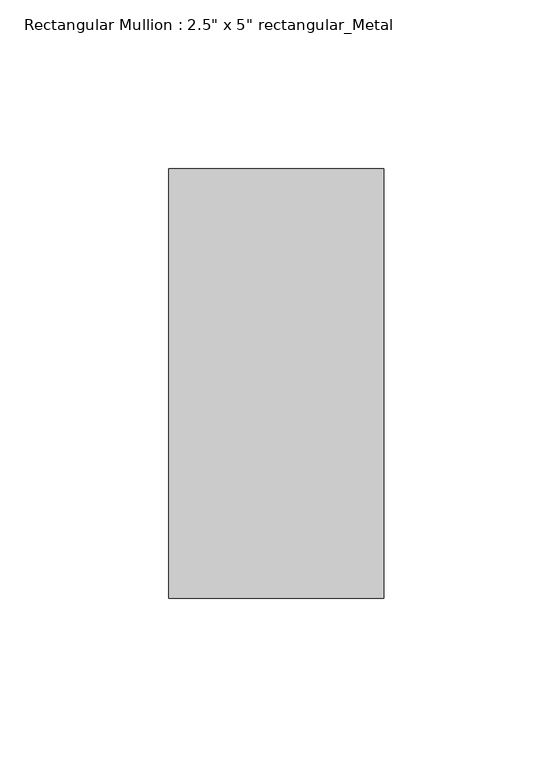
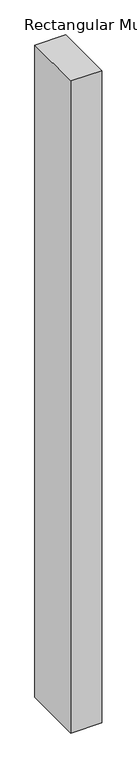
"""IFC4 building model written with IfcOpenShell, lengths in millimetres: member geometry."""

from ifc_helpers import new_model, si_unit, frame, origin, place, context, project, spatial, polyline, outline, extrude, source, transform, mapped, element, save


def member_243ec899(model_context):
    return source(origin(), model_context, "Body", "SweptSolid", [
        extrude(outline(polyline([(0.0, 63.5), (0.0, -63.5), (-63.5, -63.5), (-63.5, 63.5), (0.0, 63.5)])), frame((0.0, 0.0, -1409.7), z_axis=(0.0, 0.0, 1.0), x_axis=(1.0, 0.0, 0.0)), (0.0, 0.0, 1.0), 1409.7),
    ])


if __name__ == "__main__":
    model = new_model("IFC4")
    model_context = context("Model", 3, world=origin())
    ifc_project = project(units=[si_unit("LENGTHUNIT", "METRE", prefix="MILLI")], contexts=[model_context])
    site = spatial("IfcSite", under=ifc_project)
    building = spatial("IfcBuilding", under=site)
    placement = place(None, origin())
    member_shape = member_243ec899(model_context)
    element("IfcMember", 1, ObjectType="Rectangular Mullion : 2.5\" x 5\" rectangular_Metal", at=placement, inside=building, context=model_context, shape_type="MappedRepresentation", body=[
        mapped(member_shape, transform((0.0, 0.0, 0.0), x_axis=(1.0, 0.0, 0.0), y_axis=(0.0, 1.0, 0.0), z_axis=(0.0, 0.0, 1.0))),
    ])
    save(model, "model.ifc")
